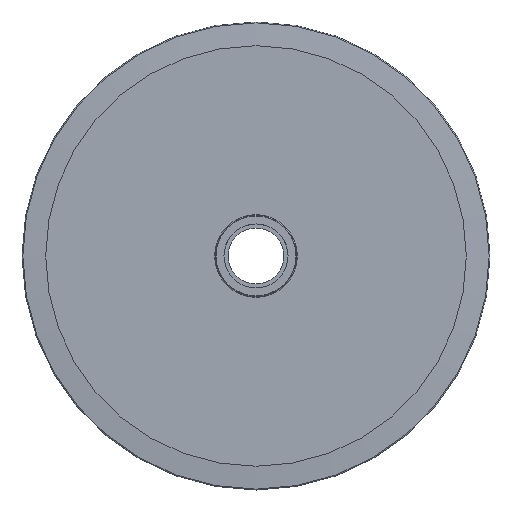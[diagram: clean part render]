
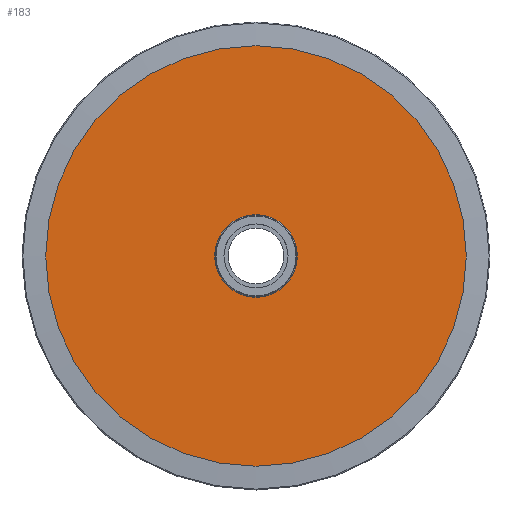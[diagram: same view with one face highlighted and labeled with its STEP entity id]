
A CAD part, top view. The second image highlights one B-rep face of the part: STEP entity #183.
In plain terms, the highlighted planar face has unit normal (0, 0, 1).
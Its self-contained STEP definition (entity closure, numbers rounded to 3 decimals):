
#132=CARTESIAN_POINT('',(0.,-22.249,3.5));
#133=VERTEX_POINT('',#132);
#134=CARTESIAN_POINT('',(0.0,0.0,3.5));
#135=DIRECTION('',(0.0,0.0,1.0));
#136=DIRECTION('',(0.0,1.0,0.0));
#137=AXIS2_PLACEMENT_3D('',#134,#135,#136);
#138=CIRCLE('',#137,22.249);
#139=EDGE_CURVE('',#133,#133,#138,.T.);
#164=CARTESIAN_POINT('',(0.0,67.366,3.5));
#165=DIRECTION('',(0.0,0.0,1.0));
#166=DIRECTION('',(1.0,0.0,0.0));
#167=AXIS2_PLACEMENT_3D('',#164,#165,#166);
#168=PLANE('',#167);
#169=CARTESIAN_POINT('',(0.0,113.232,3.5));
#170=VERTEX_POINT('',#169);
#171=CARTESIAN_POINT('',(0.0,0.0,3.5));
#172=DIRECTION('',(0.0,0.0,-1.0));
#173=DIRECTION('',(0.0,1.0,0.0));
#174=AXIS2_PLACEMENT_3D('',#171,#172,#173);
#175=CIRCLE('',#174,113.232);
#176=EDGE_CURVE('',#170,#170,#175,.T.);
#177=ORIENTED_EDGE('',*,*,#176,.F.);
#178=EDGE_LOOP('',(#177));
#179=FACE_OUTER_BOUND('',#178,.T.);
#180=ORIENTED_EDGE('',*,*,#139,.F.);
#181=EDGE_LOOP('',(#180));
#182=FACE_BOUND('',#181,.T.);
#183=ADVANCED_FACE('',(#179,#182),#168,.T.);
